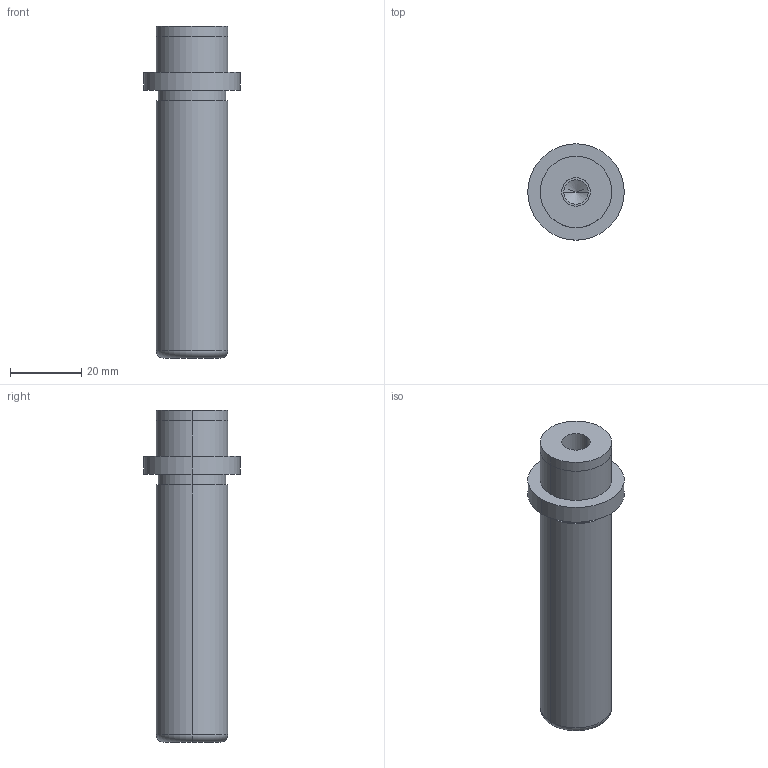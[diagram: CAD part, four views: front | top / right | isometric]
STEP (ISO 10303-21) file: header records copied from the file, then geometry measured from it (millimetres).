
FILE_DESCRIPTION(/* description */ (''),/* implementation_level */ '2;1');
FILE_NAME(/* name */ '3d_sgpw20-80_05254_r00.stp',/* time_stamp */ '2011-01-10T14:11:03+09:00',/* author */ ('MISUMI'),/* organization */ (''),/* preprocessor_version */ 'ST-DEVELOPER v11',/* originating_system */ 'UGS - NX 5.0',/* authorisation */ '');
FILE_SCHEMA (('CONFIG_CONTROL_DESIGN'));
Length unit declared in the file: millimetre
Products named in the file (1): 3d_sgpw20-80_05254_r00
Bounding box: 27 x 27 x 93 mm (x, y, z)
Volume: 28363 mm3; surface area: 8096 mm2
Topology: 1 solids, 1 shells, 31 faces, 64 edges, 38 vertices
Faces by surface type: cylinder 18, plane 7, cone 4, torus 2
Entity records: 890 total; most frequent: DIRECTION 162, CARTESIAN_POINT 130, ORIENTED_EDGE 120, AXIS2_PLACEMENT_3D 70, EDGE_CURVE 60, EDGE_LOOP 38, CIRCLE 38, VERTEX_POINT 38
